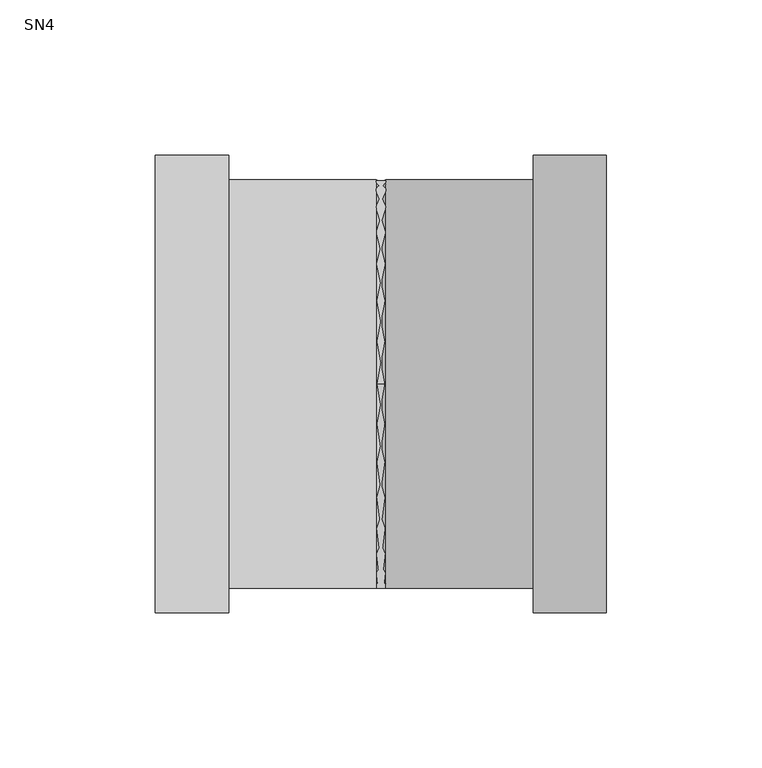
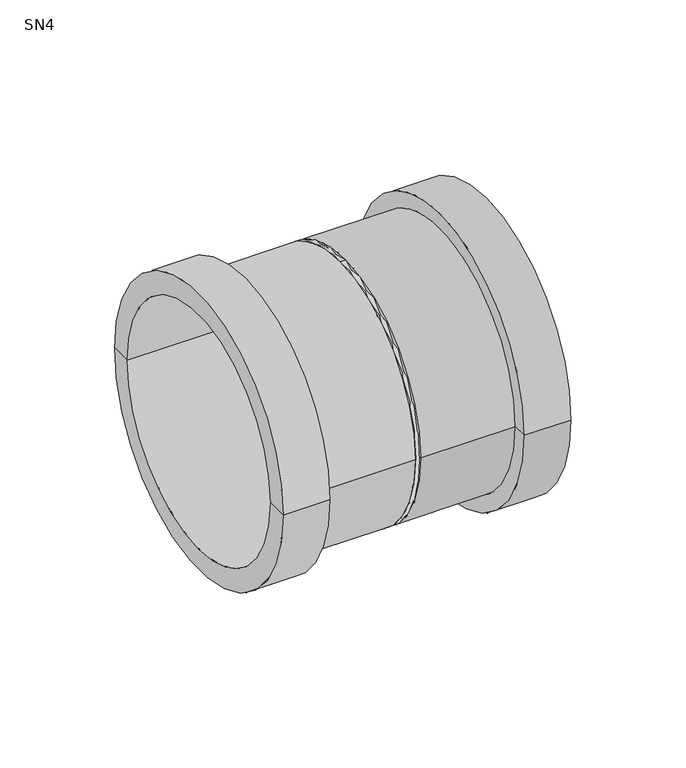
"""IFC4 building model written with IfcOpenShell, lengths in millimetres: pipe fitting geometry, NLRS-90-PIF_Z_DO_NOT_USE_Wavin PVC Buitenriolering Steekmof (Nested) : SN4."""

from ifc_helpers import new_model, si_unit, point, frame, origin, origin_2d, place, context, project, spatial, polyline, circle_curve, trimmed, segment, composite_curve, outline, extrude, source, transform, mapped, element, save
from ifc_brep_helpers import plane_surface, cylinder_surface, revolved_surface, advanced_brep


def sn4_1babb9bf(model_context):
    return source(origin(), model_context, "Body", "SolidModel", [
        advanced_brep(
        [(-72.5, 62.5, 0.0), (-72.5, -62.5, 0.0), (4.0425626, -62.5, 0.0), (4.0425626, 62.5, 0.0), (-72.5, 73.5, 0.0), (-72.5, -73.5, 0.0), (-49.0, 73.5, 0.0), (-49.0, -73.5, 0.0), (-49.0, 65.7, 0.0), (-49.0, -65.7, 0.0), (-1.5, 65.7, 0.0), (-1.5, -65.7, 0.0)],
        [
            (0, 1, circle_curve(frame((-72.5, 0.0, 0.0), z_axis=(-1.0, 0.0, 0.0), x_axis=(0.0, -1.0, 0.0)), 62.5)),
            (1, 2),
            (2, 3, circle_curve(frame((4.0425626, 0.0, 0.0), z_axis=(1.0, 0.0, 0.0), x_axis=(0.0, -1.0, 0.0)), 62.5)),
            (3, 0),
            (1, 0, circle_curve(frame((-72.5, 0.0, 0.0), z_axis=(-1.0, 0.0, 0.0), x_axis=(0.0, -1.0, 0.0)), 62.5)),
            (3, 2, circle_curve(frame((4.0425626, 0.0, 0.0), z_axis=(1.0, 0.0, 0.0), x_axis=(0.0, -1.0, 0.0)), 62.5)),
            (4, 5, circle_curve(frame((-72.5, 0.0, 0.0), z_axis=(-1.0, 0.0, 0.0), x_axis=(0.0, -1.0, 0.0)), 73.5)),
            (5, 1),
            (0, 4),
            (5, 4, circle_curve(frame((-72.5, 0.0, 0.0), z_axis=(-1.0, 0.0, 0.0), x_axis=(0.0, -1.0, 0.0)), 73.5)),
            (6, 7, circle_curve(frame((-49.0, 0.0, 0.0), z_axis=(-1.0, 0.0, 0.0), x_axis=(0.0, -1.0, 0.0)), 73.5)),
            (7, 5),
            (4, 6),
            (7, 6, circle_curve(frame((-49.0, 0.0, 0.0), z_axis=(-1.0, 0.0, 0.0), x_axis=(0.0, -1.0, 0.0)), 73.5)),
            (8, 9, circle_curve(frame((-49.0, 0.0, 0.0), z_axis=(-1.0, 0.0, 0.0), x_axis=(0.0, -1.0, 0.0)), 65.7)),
            (9, 7),
            (6, 8),
            (9, 8, circle_curve(frame((-49.0, 0.0, 0.0), z_axis=(-1.0, 0.0, 0.0), x_axis=(0.0, -1.0, 0.0)), 65.7)),
            (10, 11, circle_curve(frame((-1.5, 0.0, 0.0), z_axis=(-1.0, 0.0, 0.0), x_axis=(0.0, -1.0, 0.0)), 65.7)),
            (11, 9),
            (8, 10),
            (11, 10, circle_curve(frame((-1.5, 0.0, 0.0), z_axis=(-1.0, 0.0, 0.0), x_axis=(0.0, -1.0, 0.0)), 65.7)),
            (2, 11),
            (10, 3),
        ],
        [
            revolved_surface(polyline([(4.042562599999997, -62.5, 0.0), (-72.49999999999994, -62.5, 0.0)]), (477.4400222, 0.0, 0.0), (1.0, 0.0, 0.0)),
            plane_surface(frame((-72.5, 0.0, 0.0), z_axis=(-1.0, 0.0, 0.0), x_axis=(0.0, -1.0, 0.0))),
            cylinder_surface(frame((477.4400222, 0.0, 0.0), z_axis=(1.0, 0.0, 0.0), x_axis=(0.0, -1.0, 0.0)), 73.5),
            plane_surface(frame((-49.0, 0.0, 0.0), z_axis=(1.0, 0.0, 0.0), x_axis=(0.0, -1.0, 0.0))),
            cylinder_surface(frame((477.4400222, 0.0, 0.0), z_axis=(1.0, 0.0, 0.0), x_axis=(0.0, -1.0, 0.0)), 65.7),
            revolved_surface(polyline([(-1.5, -65.7, 0.0), (4.0425626, -62.5, 0.0)]), (477.4400222, 0.0, 0.0), (1.0, 0.0, 0.0)),
        ],
        [
            (0, [[1, 2, 3, 4]]),
            (0, [[5, -4, 6, -2]]),
            (1, [[7, 8, -1, 9]]),
            (1, [[10, -9, -5, -8]]),
            (2, [[11, 12, -7, 13]]),
            (2, [[14, -13, -10, -12]]),
            (3, [[15, 16, -11, 17]]),
            (3, [[18, -17, -14, -16]]),
            (4, [[19, 20, -15, 21]]),
            (4, [[22, -21, -18, -20]]),
            (5, [[-3, 23, -19, 24]]),
            (5, [[-6, -24, -22, -23]]),
        ],
    ),
        advanced_brep(
        [(72.5, -62.5, 0.0), (72.5, 62.5, 0.0), (-4.0425626, 62.5, 0.0), (-4.0425626, -62.5, 0.0), (72.5, -73.5, 0.0), (72.5, 73.5, 0.0), (49.0, -73.5, 0.0), (49.0, 73.5, 0.0), (49.0, -65.7, 0.0), (49.0, 65.7, 0.0), (1.5, -65.7, 0.0), (1.5, 65.7, 0.0)],
        [
            (0, 1, circle_curve(frame((72.5, 0.0, 0.0), z_axis=(1.0, 0.0, 0.0), x_axis=(0.0, 1.0, 0.0)), 62.5)),
            (1, 2),
            (2, 3, circle_curve(frame((-4.0425626, 0.0, 0.0), z_axis=(-1.0, 0.0, 0.0), x_axis=(0.0, 1.0, 0.0)), 62.5)),
            (3, 0),
            (1, 0, circle_curve(frame((72.5, 0.0, 0.0), z_axis=(1.0, 0.0, 0.0), x_axis=(0.0, 1.0, 0.0)), 62.5)),
            (3, 2, circle_curve(frame((-4.0425626, 0.0, 0.0), z_axis=(-1.0, 0.0, 0.0), x_axis=(0.0, 1.0, 0.0)), 62.5)),
            (4, 5, circle_curve(frame((72.5, 0.0, 0.0), z_axis=(1.0, 0.0, 0.0), x_axis=(0.0, 1.0, 0.0)), 73.5)),
            (5, 1),
            (0, 4),
            (5, 4, circle_curve(frame((72.5, 0.0, 0.0), z_axis=(1.0, 0.0, 0.0), x_axis=(0.0, 1.0, 0.0)), 73.5)),
            (6, 7, circle_curve(frame((49.0, 0.0, 0.0), z_axis=(1.0, 0.0, 0.0), x_axis=(0.0, 1.0, 0.0)), 73.5)),
            (7, 5),
            (4, 6),
            (7, 6, circle_curve(frame((49.0, 0.0, 0.0), z_axis=(1.0, 0.0, 0.0), x_axis=(0.0, 1.0, 0.0)), 73.5)),
            (8, 9, circle_curve(frame((49.0, 0.0, 0.0), z_axis=(1.0, 0.0, 0.0), x_axis=(0.0, 1.0, 0.0)), 65.7)),
            (9, 7),
            (6, 8),
            (9, 8, circle_curve(frame((49.0, 0.0, 0.0), z_axis=(1.0, 0.0, 0.0), x_axis=(0.0, 1.0, 0.0)), 65.7)),
            (10, 11, circle_curve(frame((1.5, 0.0, 0.0), z_axis=(1.0, 0.0, 0.0), x_axis=(0.0, 1.0, 0.0)), 65.7)),
            (11, 9),
            (8, 10),
            (11, 10, circle_curve(frame((1.5, 0.0, 0.0), z_axis=(1.0, 0.0, 0.0), x_axis=(0.0, 1.0, 0.0)), 65.7)),
            (2, 11),
            (10, 3),
        ],
        [
            revolved_surface(polyline([(-4.042562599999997, 62.5, 0.0), (72.49999999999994, 62.5, 0.0)]), (-477.4400222, 0.0, 0.0), (-1.0, 0.0, 0.0)),
            plane_surface(frame((72.5, 0.0, 0.0), z_axis=(1.0, 0.0, 0.0), x_axis=(0.0, 1.0, 0.0))),
            cylinder_surface(frame((-477.4400222, 0.0, 0.0), z_axis=(-1.0, 0.0, 0.0), x_axis=(0.0, 1.0, 0.0)), 73.5),
            plane_surface(frame((49.0, 0.0, 0.0), z_axis=(-1.0, 0.0, 0.0), x_axis=(0.0, 1.0, 0.0))),
            cylinder_surface(frame((-477.4400222, 0.0, 0.0), z_axis=(-1.0, 0.0, 0.0), x_axis=(0.0, 1.0, 0.0)), 65.7),
            revolved_surface(polyline([(1.5, 65.7, 0.0), (-4.0425626, 62.5, 0.0)]), (-477.4400222, 0.0, 0.0), (-1.0, 0.0, 0.0)),
        ],
        [
            (0, [[1, 2, 3, 4]]),
            (0, [[5, -4, 6, -2]]),
            (1, [[7, 8, -1, 9]]),
            (1, [[10, -9, -5, -8]]),
            (2, [[11, 12, -7, 13]]),
            (2, [[14, -13, -10, -12]]),
            (3, [[15, 16, -11, 17]]),
            (3, [[18, -17, -14, -16]]),
            (4, [[19, 20, -15, 21]]),
            (4, [[22, -21, -18, -20]]),
            (5, [[-3, 23, -19, 24]]),
            (5, [[-6, -24, -22, -23]]),
        ],
    ),
        extrude(outline(composite_curve([segment(trimmed(circle_curve(origin_2d(), 65.7), [point((0.0, -65.7))], [point((0.0, 65.7))], False, "CARTESIAN"), True, "CONTINUOUS"), segment(trimmed(circle_curve(origin_2d(), 65.7), [point((0.0, 65.7))], [point((0.0, -65.7))], False, "CARTESIAN"), True, "CONTINUOUS")], self_intersect=False)), frame((-1.5, 0.0, 0.0), z_axis=(1.0, 0.0, 0.0), x_axis=(0.0, 1.0, 0.0)), (0.0, 0.0, 1.0), 3.0),
    ])


if __name__ == "__main__":
    model = new_model("IFC4")
    model_context = context("Model", 3, world=origin())
    ifc_project = project(units=[si_unit("LENGTHUNIT", "METRE", prefix="MILLI")], contexts=[model_context])
    site = spatial("IfcSite", under=ifc_project)
    building = spatial("IfcBuilding", under=site)
    placement = place(None, origin())
    sn4_shape = sn4_1babb9bf(model_context)
    element("IfcPipeFitting", 1, ObjectType="NLRS-90-PIF_Z_DO_NOT_USE_Wavin PVC Buitenriolering Steekmof (Nested) : SN4", at=placement, inside=building, context=model_context, shape_type="MappedRepresentation", body=[
        mapped(sn4_shape, transform((0.0, 0.0, 0.0), x_axis=(1.0, 0.0, 0.0), y_axis=(0.0, 1.0, 0.0), z_axis=(0.0, 0.0, 1.0))),
    ])
    save(model, "model.ifc")
